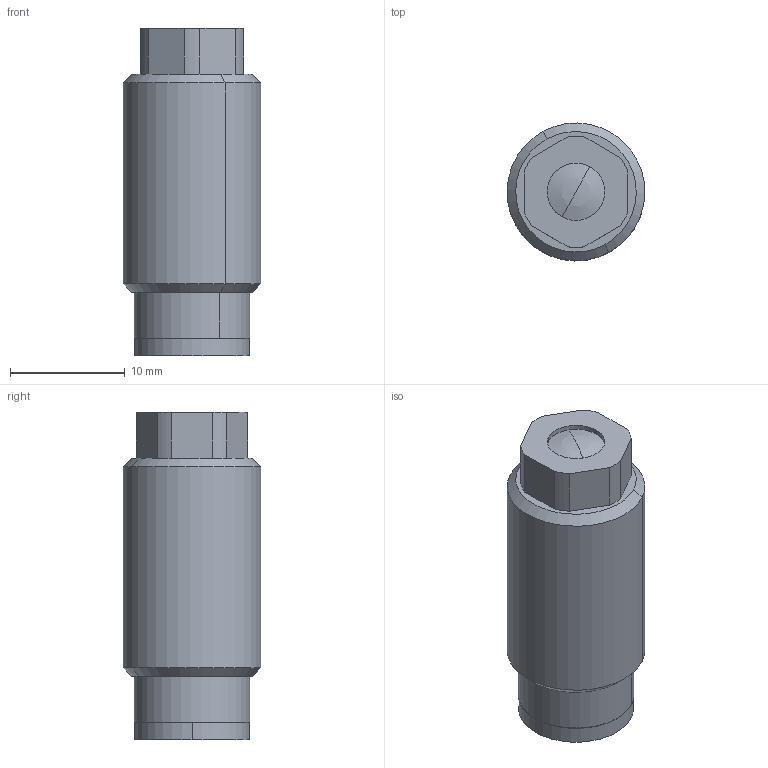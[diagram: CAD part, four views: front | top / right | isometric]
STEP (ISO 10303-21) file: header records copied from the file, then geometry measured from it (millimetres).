
FILE_DESCRIPTION(('CATIA V5 STEP Exchange'),'2;1');
FILE_NAME('\\Kjf-102\kjf_tc\Hydraulic_Clamp\Standard\THREADED_BODY\MTB-08XX\MTB-0805.stp','2023-07-07T03:17:04+00:00',('none'),('none'),'CATIA Version 5 Release 19 SP 6 (IN-10)','CATIA V5 STEP AP203','none');
FILE_SCHEMA(('CONFIG_CONTROL_DESIGN'));
Length unit declared in the file: millimetre
Products named in the file (1): MTB-0805_-
Assembly tree (3 placements, depth 2):
  MTB-0805_-
    #58
    #852
    #975
Bounding box: 12 x 12 x 28.5 mm (x, y, z)
Volume: 2757.9 mm3; surface area: 1894.7 mm2
Topology: 3 solids, 3 shells, 41 faces, 90 edges, 57 vertices
Faces by surface type: cylinder 18, plane 15, cone 6, sphere 2
Entity records: 1127 total; most frequent: CARTESIAN_POINT 179, ORIENTED_EDGE 176, DIRECTION 156, EDGE_CURVE 88, AXIS2_PLACEMENT_3D 80, VERTEX_POINT 57, EDGE_LOOP 47, CIRCLE 46
